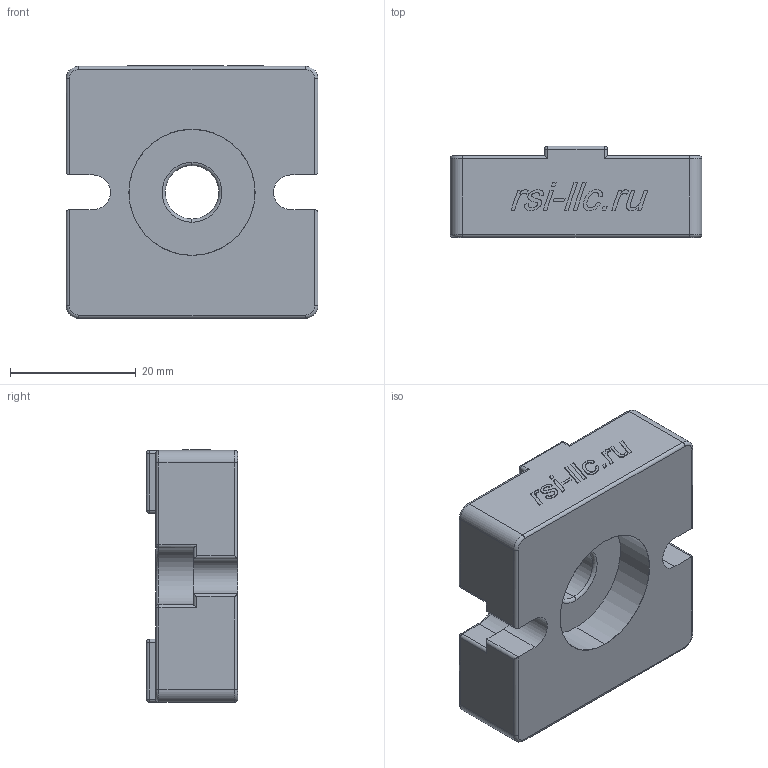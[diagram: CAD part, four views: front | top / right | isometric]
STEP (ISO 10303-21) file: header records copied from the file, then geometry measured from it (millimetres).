
FILE_DESCRIPTION (( 'STEP AP214' ), '1' );
FILE_NAME ('312.0301A.01.STEP', '2021-01-12T09:57:14', ( '' ), ( '' ), 'SwSTEP 2.0', 'SolidWorks 2020', '' );
FILE_SCHEMA (( 'AUTOMOTIVE_DESIGN' ));
Length unit declared in the file: millimetre
Products named in the file (1): 312.0301A.01
Bounding box: 40 x 14.5 x 40.1 mm (x, y, z)
Volume: 17277.6 mm3; surface area: 5960 mm2
Topology: 12 solids, 12 shells, 216 faces, 509 edges, 306 vertices
Faces by surface type: plane 100, cylinder 58, bspline 32, torus 12, sphere 12, cone 2
Entity records: 10246 total; most frequent: CARTESIAN_POINT 3052, ORIENTED_EDGE 994, DIRECTION 887, EDGE_CURVE 497, VECTOR 317, LINE 317, VERTEX_POINT 306, AXIS2_PLACEMENT_3D 285
